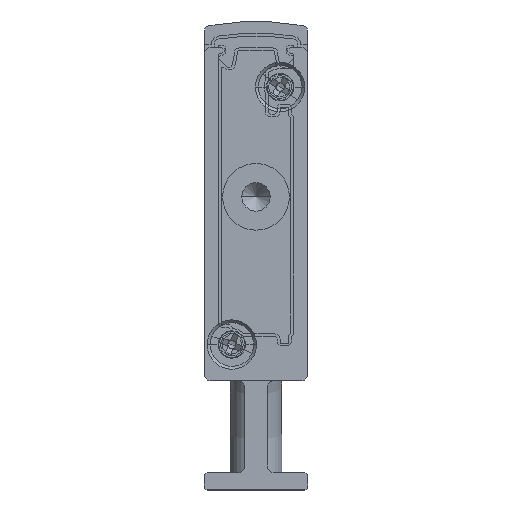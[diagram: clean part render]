
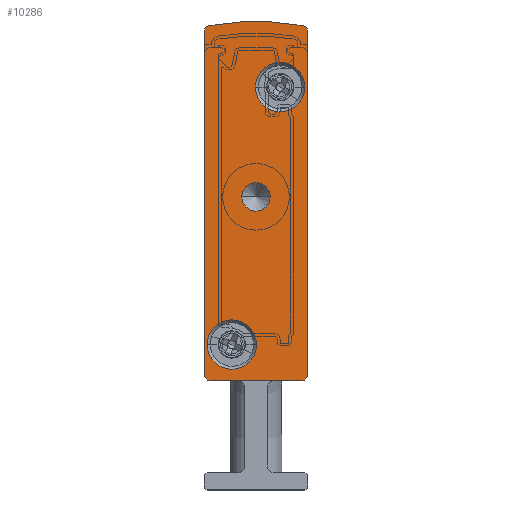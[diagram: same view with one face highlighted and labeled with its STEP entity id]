
A CAD part, front view. The second image highlights one B-rep face of the part: STEP entity #10286.
In plain terms, the highlighted planar face has unit normal (0, -1, 0).
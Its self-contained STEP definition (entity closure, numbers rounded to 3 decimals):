
#158 = VERTEX_POINT ( 'NONE', #10236 ) ;
#160 = EDGE_CURVE ( 'NONE', #16466, #158, #3170, .T. ) ;
#303 = FACE_BOUND ( 'NONE', #11494, .T. ) ;
#466 = EDGE_CURVE ( 'NONE', #8144, #15805, #10702, .T. ) ;
#508 = CARTESIAN_POINT ( 'NONE',  ( 4.5, -2.5, 25.5 ) ) ;
#822 = CARTESIAN_POINT ( 'NONE',  ( 0., -2.5, 39.902 ) ) ;
#902 = CARTESIAN_POINT ( 'NONE',  ( 4.5, -2.5, 17.092 ) ) ;
#994 = ORIENTED_EDGE ( 'NONE', *, *, #14619, .F. ) ;
#1058 = VECTOR ( 'NONE', #2886, 1000. ) ;
#1460 = EDGE_CURVE ( 'NONE', #7041, #3379, #17760, .T. ) ;
#1470 = DIRECTION ( 'NONE',  ( 1., 0., 0. ) ) ;
#1485 = DIRECTION ( 'NONE',  ( 0., 1., 0. ) ) ;
#1507 = VECTOR ( 'NONE', #11388, 1000. ) ;
#1610 = ORIENTED_EDGE ( 'NONE', *, *, #1650, .F. ) ;
#1650 = EDGE_CURVE ( 'NONE', #17894, #7041, #7553, .T. ) ;
#1710 = VERTEX_POINT ( 'NONE', #16065 ) ;
#2261 = CIRCLE ( 'NONE', #3398, 2.15 ) ;
#2401 = AXIS2_PLACEMENT_3D ( 'NONE', #11599, #7022, #3948 ) ;
#2420 = CARTESIAN_POINT ( 'NONE',  ( 9., -2.5, 39.902 ) ) ;
#2749 = PLANE ( 'NONE',  #7025 ) ;
#2886 = DIRECTION ( 'NONE',  ( -1., 0., 0. ) ) ;
#2892 = CARTESIAN_POINT ( 'NONE',  ( 0.25, -2.5, 12.65 ) ) ;
#3034 = DIRECTION ( 'NONE',  ( 0., -1., 0. ) ) ;
#3170 = LINE ( 'NONE', #7175, #1058 ) ;
#3376 = CARTESIAN_POINT ( 'NONE',  ( 2.4, -2.5, 12.65 ) ) ;
#3379 = VERTEX_POINT ( 'NONE', #17553 ) ;
#3398 = AXIS2_PLACEMENT_3D ( 'NONE', #4847, #6411, #9689 ) ;
#3422 = CARTESIAN_POINT ( 'NONE',  ( 0.5, -2.5, 10. ) ) ;
#3551 = EDGE_CURVE ( 'NONE', #10479, #1710, #16618, .T. ) ;
#3714 = ORIENTED_EDGE ( 'NONE', *, *, #16494, .F. ) ;
#3948 = DIRECTION ( 'NONE',  ( -1., 0., 0. ) ) ;
#4564 = ORIENTED_EDGE ( 'NONE', *, *, #9271, .F. ) ;
#4614 = AXIS2_PLACEMENT_3D ( 'NONE', #11212, #12744, #6910 ) ;
#4847 = CARTESIAN_POINT ( 'NONE',  ( 6.6, -2.5, 35.05 ) ) ;
#4848 = CARTESIAN_POINT ( 'NONE',  ( 8.75, -2.5, 35.05 ) ) ;
#5137 = DIRECTION ( 'NONE',  ( 1., 0., 0. ) ) ;
#5763 = ORIENTED_EDGE ( 'NONE', *, *, #160, .F. ) ;
#5843 = ORIENTED_EDGE ( 'NONE', *, *, #6366, .F. ) ;
#5855 = AXIS2_PLACEMENT_3D ( 'NONE', #3376, #10842, #15391 ) ;
#5875 = CARTESIAN_POINT ( 'NONE',  ( 4.45, -2.5, 35.05 ) ) ;
#6019 = ORIENTED_EDGE ( 'NONE', *, *, #14827, .F. ) ;
#6060 = AXIS2_PLACEMENT_3D ( 'NONE', #12095, #3034, #1470 ) ;
#6192 = FACE_BOUND ( 'NONE', #7205, .T. ) ;
#6317 = CIRCLE ( 'NONE', #7509, 1.25 ) ;
#6366 = EDGE_CURVE ( 'NONE', #3379, #14087, #8816, .T. ) ;
#6411 = DIRECTION ( 'NONE',  ( 0., -1., 0. ) ) ;
#6670 = FACE_OUTER_BOUND ( 'NONE', #9636, .T. ) ;
#6910 = DIRECTION ( 'NONE',  ( -1., 0., 0. ) ) ;
#6987 = CIRCLE ( 'NONE', #19596, 0.5 ) ;
#7022 = DIRECTION ( 'NONE',  ( 0., 1., 0. ) ) ;
#7025 = AXIS2_PLACEMENT_3D ( 'NONE', #10222, #7232, #11734 ) ;
#7041 = VERTEX_POINT ( 'NONE', #7384 ) ;
#7051 = ORIENTED_EDGE ( 'NONE', *, *, #466, .T. ) ;
#7175 = CARTESIAN_POINT ( 'NONE',  ( 0.5, -2.5, 9.5 ) ) ;
#7205 = EDGE_LOOP ( 'NONE', ( #16767, #12998 ) ) ;
#7232 = DIRECTION ( 'NONE',  ( 0., 1., 0. ) ) ;
#7341 = EDGE_CURVE ( 'NONE', #1710, #10479, #14608, .T. ) ;
#7363 = CARTESIAN_POINT ( 'NONE',  ( 3.25, -2.5, 25.5 ) ) ;
#7384 = CARTESIAN_POINT ( 'NONE',  ( 0., -2.5, 39.902 ) ) ;
#7509 = AXIS2_PLACEMENT_3D ( 'NONE', #19081, #17535, #9995 ) ;
#7553 = LINE ( 'NONE', #822, #8261 ) ;
#7696 = VERTEX_POINT ( 'NONE', #17405 ) ;
#7915 = EDGE_CURVE ( 'NONE', #14355, #19369, #13513, .T. ) ;
#7917 = DIRECTION ( 'NONE',  ( -1., 0., 0. ) ) ;
#8144 = VERTEX_POINT ( 'NONE', #15642 ) ;
#8261 = VECTOR ( 'NONE', #11362, 1000. ) ;
#8816 = CIRCLE ( 'NONE', #18661, 23.658 ) ;
#9271 = EDGE_CURVE ( 'NONE', #15155, #16466, #6987, .T. ) ;
#9381 = CIRCLE ( 'NONE', #12720, 0.5 ) ;
#9515 = CARTESIAN_POINT ( 'NONE',  ( 2.4, -2.5, 12.65 ) ) ;
#9636 = EDGE_LOOP ( 'NONE', ( #16443, #1610, #994, #5763, #4564, #19137, #6019, #5843 ) ) ;
#9689 = DIRECTION ( 'NONE',  ( 1., 0., 0. ) ) ;
#9995 = DIRECTION ( 'NONE',  ( -1., 0., 0. ) ) ;
#10155 = EDGE_CURVE ( 'NONE', #7696, #15155, #13331, .T. ) ;
#10222 = CARTESIAN_POINT ( 'NONE',  ( 0.5, -2.5, 39.902 ) ) ;
#10236 = CARTESIAN_POINT ( 'NONE',  ( 0.5, -2.5, 9.5 ) ) ;
#10286 = ADVANCED_FACE ( 'NONE', ( #303, #6192, #6670, #18321 ), #2749, .F. ) ;
#10479 = VERTEX_POINT ( 'NONE', #2892 ) ;
#10522 = CARTESIAN_POINT ( 'NONE',  ( 8.5, -2.5, 10. ) ) ;
#10702 = CIRCLE ( 'NONE', #16552, 1.25 ) ;
#10842 = DIRECTION ( 'NONE',  ( 0., -1., 0. ) ) ;
#11019 = DIRECTION ( 'NONE',  ( 0., 1., 0. ) ) ;
#11053 = CARTESIAN_POINT ( 'NONE',  ( 8.5, -2.5, 9.5 ) ) ;
#11066 = DIRECTION ( 'NONE',  ( -1., 0., 0. ) ) ;
#11212 = CARTESIAN_POINT ( 'NONE',  ( 8.5, -2.5, 39.902 ) ) ;
#11362 = DIRECTION ( 'NONE',  ( 0., 0., 1. ) ) ;
#11388 = DIRECTION ( 'NONE',  ( 0., 0., -1. ) ) ;
#11455 = DIRECTION ( 'NONE',  ( 0., 1., 0. ) ) ;
#11494 = EDGE_LOOP ( 'NONE', ( #3714, #16713 ) ) ;
#11599 = CARTESIAN_POINT ( 'NONE',  ( 0.5, -2.5, 39.902 ) ) ;
#11734 = DIRECTION ( 'NONE',  ( -1., 0., 0. ) ) ;
#11972 = CIRCLE ( 'NONE', #4614, 0.5 ) ;
#12095 = CARTESIAN_POINT ( 'NONE',  ( 6.6, -2.5, 35.05 ) ) ;
#12284 = AXIS2_PLACEMENT_3D ( 'NONE', #9515, #14162, #5137 ) ;
#12720 = AXIS2_PLACEMENT_3D ( 'NONE', #3422, #11019, #7917 ) ;
#12744 = DIRECTION ( 'NONE',  ( 0., 1., 0. ) ) ;
#12876 = CARTESIAN_POINT ( 'NONE',  ( 0., -2.5, 10. ) ) ;
#12984 = DIRECTION ( 'NONE',  ( -1., 0., 0. ) ) ;
#12998 = ORIENTED_EDGE ( 'NONE', *, *, #3551, .F. ) ;
#13331 = LINE ( 'NONE', #2420, #1507 ) ;
#13513 = CIRCLE ( 'NONE', #6060, 2.15 ) ;
#13812 = CARTESIAN_POINT ( 'NONE',  ( 8.592, -2.5, 40.393 ) ) ;
#14087 = VERTEX_POINT ( 'NONE', #13812 ) ;
#14162 = DIRECTION ( 'NONE',  ( 0., -1., 0. ) ) ;
#14281 = EDGE_CURVE ( 'NONE', #15805, #8144, #6317, .T. ) ;
#14355 = VERTEX_POINT ( 'NONE', #5875 ) ;
#14524 = EDGE_LOOP ( 'NONE', ( #17077, #7051 ) ) ;
#14608 = CIRCLE ( 'NONE', #12284, 2.15 ) ;
#14619 = EDGE_CURVE ( 'NONE', #158, #17894, #9381, .T. ) ;
#14723 = CARTESIAN_POINT ( 'NONE',  ( 9., -2.5, 10. ) ) ;
#14827 = EDGE_CURVE ( 'NONE', #14087, #7696, #11972, .T. ) ;
#15155 = VERTEX_POINT ( 'NONE', #14723 ) ;
#15391 = DIRECTION ( 'NONE',  ( 1., 0., 0. ) ) ;
#15590 = DIRECTION ( 'NONE',  ( -1., 0., 0. ) ) ;
#15642 = CARTESIAN_POINT ( 'NONE',  ( 5.75, -2.5, 25.5 ) ) ;
#15805 = VERTEX_POINT ( 'NONE', #7363 ) ;
#16065 = CARTESIAN_POINT ( 'NONE',  ( 4.55, -2.5, 12.65 ) ) ;
#16443 = ORIENTED_EDGE ( 'NONE', *, *, #1460, .F. ) ;
#16466 = VERTEX_POINT ( 'NONE', #11053 ) ;
#16494 = EDGE_CURVE ( 'NONE', #19369, #14355, #2261, .T. ) ;
#16552 = AXIS2_PLACEMENT_3D ( 'NONE', #508, #18769, #11066 ) ;
#16618 = CIRCLE ( 'NONE', #5855, 2.15 ) ;
#16713 = ORIENTED_EDGE ( 'NONE', *, *, #7915, .F. ) ;
#16767 = ORIENTED_EDGE ( 'NONE', *, *, #7341, .F. ) ;
#17077 = ORIENTED_EDGE ( 'NONE', *, *, #14281, .T. ) ;
#17405 = CARTESIAN_POINT ( 'NONE',  ( 9., -2.5, 39.902 ) ) ;
#17535 = DIRECTION ( 'NONE',  ( 0., 1., 0. ) ) ;
#17553 = CARTESIAN_POINT ( 'NONE',  ( 0.408, -2.5, 40.393 ) ) ;
#17760 = CIRCLE ( 'NONE', #2401, 0.5 ) ;
#17894 = VERTEX_POINT ( 'NONE', #12876 ) ;
#18321 = FACE_BOUND ( 'NONE', #14524, .T. ) ;
#18661 = AXIS2_PLACEMENT_3D ( 'NONE', #902, #11455, #12984 ) ;
#18769 = DIRECTION ( 'NONE',  ( 0., 1., 0. ) ) ;
#19081 = CARTESIAN_POINT ( 'NONE',  ( 4.5, -2.5, 25.5 ) ) ;
#19137 = ORIENTED_EDGE ( 'NONE', *, *, #10155, .F. ) ;
#19369 = VERTEX_POINT ( 'NONE', #4848 ) ;
#19596 = AXIS2_PLACEMENT_3D ( 'NONE', #10522, #1485, #15590 ) ;
